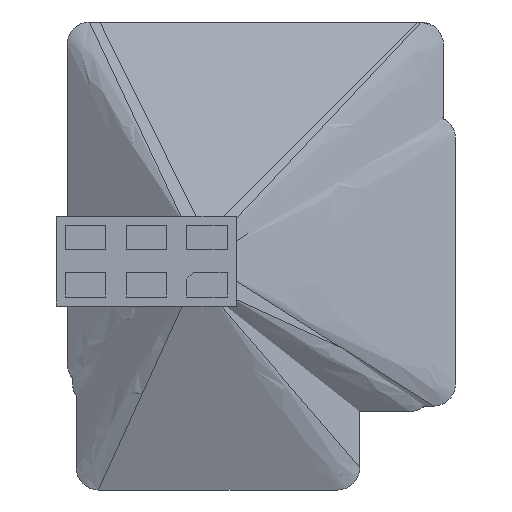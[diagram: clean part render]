
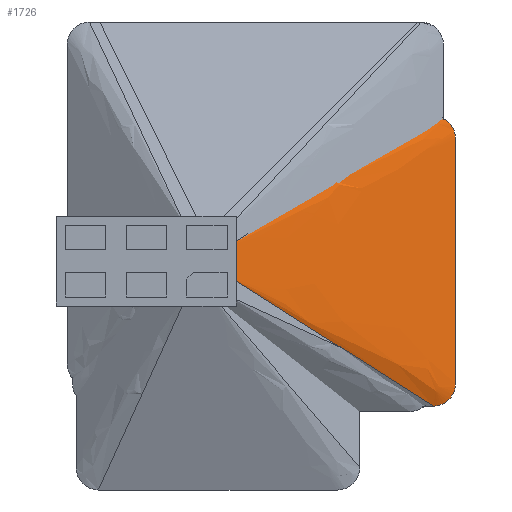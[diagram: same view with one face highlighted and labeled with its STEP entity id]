
A CAD part, front view. The second image highlights one B-rep face of the part: STEP entity #1726.
In plain terms, the highlighted free-form (B-spline) face has degree [3, 1] with [17, 2] control points.
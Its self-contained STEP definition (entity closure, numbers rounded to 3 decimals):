
#6 = CARTESIAN_POINT ( 'NONE',  ( 2.674, 1., -0.68 ) ) ;
#26 = CARTESIAN_POINT ( 'NONE',  ( 2.674, 1., 0. ) ) ;
#62 = CARTESIAN_POINT ( 'NONE',  ( 2.674, 1., -1.395 ) ) ;
#71 = ORIENTED_EDGE ( 'NONE', *, *, #3283, .T. ) ;
#90 = EDGE_CURVE ( 'NONE', #2582, #2716, #1648, .T. ) ;
#99 = B_SPLINE_SURFACE_WITH_KNOTS ( 'NONE', 3, 1, ( 
 ( #2860, #1579 ),
 ( #626, #2517 ),
 ( #1872, #3141 ),
 ( #3442, #3102 ),
 ( #3160, #3741 ),
 ( #375, #3465 ),
 ( #1615, #3420 ),
 ( #959, #1850 ),
 ( #3387, #26 ),
 ( #1283, #6 ),
 ( #1887, #1911 ),
 ( #359, #62 ),
 ( #1230, #3123 ),
 ( #1559, #2826 ),
 ( #2505, #3727 ),
 ( #663, #1599 ),
 ( #3706, #2483 ) ),
 .UNSPECIFIED., .F., .F., .F.,
 ( 4, 1, 1, 1, 2, 1, 1, 1, 2, 1, 1, 1, 4 ),
 ( 2, 2 ),
 ( 0., 0.027, 0.054, 0.08, 0.107, 0.304, 0.5, 0.696, 0.893, 0.92, 0.946, 0.973, 1. ),
 ( 0., 1. ),
 .UNSPECIFIED. ) ;
#223 = VERTEX_POINT ( 'NONE', #1171 ) ;
#250 = CARTESIAN_POINT ( 'NONE',  ( 2.674, 1., 1.364 ) ) ;
#260 = CIRCLE ( 'NONE', #2741, 0.25 ) ;
#274 = EDGE_CURVE ( 'NONE', #1852, #223, #2980, .T. ) ;
#359 = CARTESIAN_POINT ( 'NONE',  ( 0.162, 0.135, -0.142 ) ) ;
#375 = CARTESIAN_POINT ( 'NONE',  ( 0.162, 0.135, 0.142 ) ) ;
#382 = DIRECTION ( 'NONE',  ( 0., 0., -1. ) ) ;
#573 = EDGE_CURVE ( 'NONE', #2716, #2887, #1823, .T. ) ;
#626 = CARTESIAN_POINT ( 'NONE',  ( 0.162, 0.135, 0.171 ) ) ;
#663 = CARTESIAN_POINT ( 'NONE',  ( 0.162, 0.135, -0.171 ) ) ;
#688 = CARTESIAN_POINT ( 'NONE',  ( 2.674, 1., -1.364 ) ) ;
#818 = CARTESIAN_POINT ( 'NONE',  ( 0.162, 0.135, 0.174 ) ) ;
#857 = DIRECTION ( 'NONE',  ( 0., 0., 1. ) ) ;
#916 = CARTESIAN_POINT ( 'NONE',  ( 1.293, 0.568, 0.894 ) ) ;
#959 = CARTESIAN_POINT ( 'NONE',  ( 0.162, 0.135, 0.069 ) ) ;
#985 = ORIENTED_EDGE ( 'NONE', *, *, #274, .T. ) ;
#1066 = EDGE_LOOP ( 'NONE', ( #985, #2460, #1805, #3833, #1667, #71 ) ) ;
#1171 = CARTESIAN_POINT ( 'NONE',  ( 0.162, 0.135, -0.174 ) ) ;
#1230 = CARTESIAN_POINT ( 'NONE',  ( 0.162, 0.135, -0.148 ) ) ;
#1243 = VERTEX_POINT ( 'NONE', #3651 ) ;
#1283 = CARTESIAN_POINT ( 'NONE',  ( 0.162, 0.135, -0.069 ) ) ;
#1511 = DIRECTION ( 'NONE',  ( -0.803, -0.307, -0.511 ) ) ;
#1559 = CARTESIAN_POINT ( 'NONE',  ( 0.162, 0.135, -0.157 ) ) ;
#1579 = CARTESIAN_POINT ( 'NONE',  ( 2.424, 1., 1.614 ) ) ;
#1599 = CARTESIAN_POINT ( 'NONE',  ( 2.457, 1., -1.614 ) ) ;
#1615 = CARTESIAN_POINT ( 'NONE',  ( 0.162, 0.135, 0.116 ) ) ;
#1648 = LINE ( 'NONE', #688, #3813 ) ;
#1667 = ORIENTED_EDGE ( 'NONE', *, *, #2608, .F. ) ;
#1726 = ADVANCED_FACE ( 'NONE', ( #2195 ), #99, .T. ) ;
#1785 = DIRECTION ( 'NONE',  ( 0., 1., 0. ) ) ;
#1805 = ORIENTED_EDGE ( 'NONE', *, *, #573, .F. ) ;
#1823 = CIRCLE ( 'NONE', #3314, 0.25 ) ;
#1850 = CARTESIAN_POINT ( 'NONE',  ( 2.674, 1., 0.68 ) ) ;
#1852 = VERTEX_POINT ( 'NONE', #2370 ) ;
#1872 = CARTESIAN_POINT ( 'NONE',  ( 0.162, 0.135, 0.165 ) ) ;
#1887 = CARTESIAN_POINT ( 'NONE',  ( 0.162, 0.135, -0.116 ) ) ;
#1911 = CARTESIAN_POINT ( 'NONE',  ( 2.674, 1., -1.135 ) ) ;
#1955 = VECTOR ( 'NONE', #2337, 1000. ) ;
#2195 = FACE_OUTER_BOUND ( 'NONE', #1066, .T. ) ;
#2266 = EDGE_CURVE ( 'NONE', #223, #2887, #2426, .T. ) ;
#2337 = DIRECTION ( 'NONE',  ( 0., 0., -1. ) ) ;
#2370 = CARTESIAN_POINT ( 'NONE',  ( 0.162, 0.135, 0.174 ) ) ;
#2420 = CARTESIAN_POINT ( 'NONE',  ( 2.424, 1., 1.364 ) ) ;
#2426 = LINE ( 'NONE', #3605, #3629 ) ;
#2460 = ORIENTED_EDGE ( 'NONE', *, *, #2266, .T. ) ;
#2483 = CARTESIAN_POINT ( 'NONE',  ( 2.424, 1., -1.614 ) ) ;
#2505 = CARTESIAN_POINT ( 'NONE',  ( 0.162, 0.135, -0.165 ) ) ;
#2517 = CARTESIAN_POINT ( 'NONE',  ( 2.457, 1., 1.614 ) ) ;
#2582 = VERTEX_POINT ( 'NONE', #250 ) ;
#2608 = EDGE_CURVE ( 'NONE', #1243, #2582, #260, .T. ) ;
#2716 = VERTEX_POINT ( 'NONE', #3360 ) ;
#2741 = AXIS2_PLACEMENT_3D ( 'NONE', #2420, #3641, #857 ) ;
#2820 = LINE ( 'NONE', #916, #3338 ) ;
#2826 = CARTESIAN_POINT ( 'NONE',  ( 2.608, 1., -1.544 ) ) ;
#2860 = CARTESIAN_POINT ( 'NONE',  ( 0.162, 0.135, 0.174 ) ) ;
#2887 = VERTEX_POINT ( 'NONE', #3798 ) ;
#2980 = LINE ( 'NONE', #818, #1955 ) ;
#3102 = CARTESIAN_POINT ( 'NONE',  ( 2.608, 1., 1.544 ) ) ;
#3123 = CARTESIAN_POINT ( 'NONE',  ( 2.663, 1., -1.459 ) ) ;
#3141 = CARTESIAN_POINT ( 'NONE',  ( 2.523, 1., 1.601 ) ) ;
#3160 = CARTESIAN_POINT ( 'NONE',  ( 0.162, 0.135, 0.148 ) ) ;
#3283 = EDGE_CURVE ( 'NONE', #1243, #1852, #2820, .T. ) ;
#3314 = AXIS2_PLACEMENT_3D ( 'NONE', #3550, #1785, #3639 ) ;
#3338 = VECTOR ( 'NONE', #1511, 1000. ) ;
#3360 = CARTESIAN_POINT ( 'NONE',  ( 2.674, 1., -1.364 ) ) ;
#3387 = CARTESIAN_POINT ( 'NONE',  ( 0.162, 0.135, 0. ) ) ;
#3420 = CARTESIAN_POINT ( 'NONE',  ( 2.674, 1., 1.135 ) ) ;
#3442 = CARTESIAN_POINT ( 'NONE',  ( 0.162, 0.135, 0.157 ) ) ;
#3465 = CARTESIAN_POINT ( 'NONE',  ( 2.674, 1., 1.395 ) ) ;
#3550 = CARTESIAN_POINT ( 'NONE',  ( 2.424, 1., -1.364 ) ) ;
#3605 = CARTESIAN_POINT ( 'NONE',  ( 1.293, 0.568, -0.894 ) ) ;
#3629 = VECTOR ( 'NONE', #3649, 1000. ) ;
#3639 = DIRECTION ( 'NONE',  ( 0., 0., 1. ) ) ;
#3641 = DIRECTION ( 'NONE',  ( 0., 1., 0. ) ) ;
#3649 = DIRECTION ( 'NONE',  ( 0.803, 0.307, -0.511 ) ) ;
#3651 = CARTESIAN_POINT ( 'NONE',  ( 2.424, 1., 1.614 ) ) ;
#3706 = CARTESIAN_POINT ( 'NONE',  ( 0.162, 0.135, -0.174 ) ) ;
#3727 = CARTESIAN_POINT ( 'NONE',  ( 2.523, 1., -1.601 ) ) ;
#3741 = CARTESIAN_POINT ( 'NONE',  ( 2.663, 1., 1.459 ) ) ;
#3798 = CARTESIAN_POINT ( 'NONE',  ( 2.424, 1., -1.614 ) ) ;
#3813 = VECTOR ( 'NONE', #382, 1000. ) ;
#3833 = ORIENTED_EDGE ( 'NONE', *, *, #90, .F. ) ;
